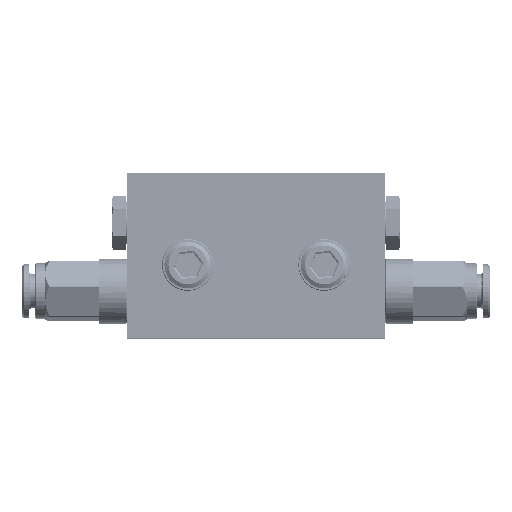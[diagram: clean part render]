
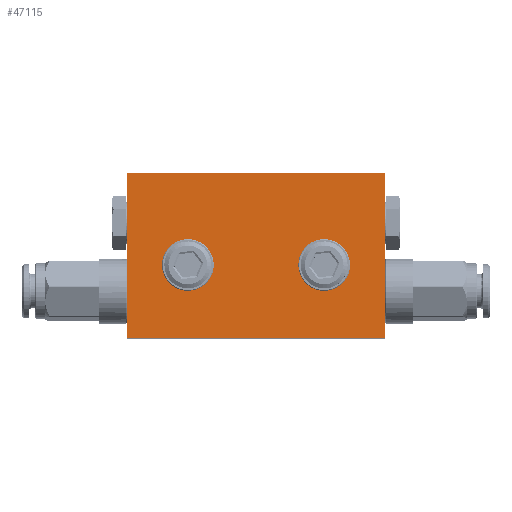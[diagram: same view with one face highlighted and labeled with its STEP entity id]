
A CAD part, top view. The second image highlights one B-rep face of the part: STEP entity #47115.
In plain terms, the highlighted planar face has unit normal (0, 0, 1) as drawn and (0, 0, -1) by its records, which use the part's own axes.
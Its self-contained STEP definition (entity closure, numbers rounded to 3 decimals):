
#1996 = LINE ( 'NONE', #6321, #38042 ) ;
#2087 = VERTEX_POINT ( 'NONE', #30344 ) ;
#2712 = DIRECTION ( 'NONE',  ( 1., 0., 0. ) ) ;
#4812 = EDGE_CURVE ( 'NONE', #17223, #35298, #1996, .T. ) ;
#6083 = VERTEX_POINT ( 'NONE', #46271 ) ;
#6157 = CARTESIAN_POINT ( 'NONE',  ( 0., 0., -4.85 ) ) ;
#6321 = CARTESIAN_POINT ( 'NONE',  ( 0., -35., -4.85 ) ) ;
#7140 = LINE ( 'NONE', #21806, #38499 ) ;
#7568 = DIRECTION ( 'NONE',  ( 0., 0., -1. ) ) ;
#7665 = VECTOR ( 'NONE', #36628, 1000. ) ;
#10630 = EDGE_CURVE ( 'NONE', #25937, #25937, #44286, .T. ) ;
#10793 = CARTESIAN_POINT ( 'NONE',  ( 11.4, -15.5, -4.85 ) ) ;
#11170 = CARTESIAN_POINT ( 'NONE',  ( -14.5, -15.5, -4.85 ) ) ;
#12442 = FACE_OUTER_BOUND ( 'NONE', #37999, .T. ) ;
#12645 = CARTESIAN_POINT ( 'NONE',  ( 0., 0., -4.85 ) ) ;
#12879 = EDGE_CURVE ( 'NONE', #35298, #2087, #21505, .T. ) ;
#14309 = CIRCLE ( 'NONE', #33456, 3.1 ) ;
#15279 = CARTESIAN_POINT ( 'NONE',  ( -27.5, 0., -4.85 ) ) ;
#17223 = VERTEX_POINT ( 'NONE', #35770 ) ;
#19350 = VERTEX_POINT ( 'NONE', #15279 ) ;
#19713 = DIRECTION ( 'NONE',  ( 0., 0., -1. ) ) ;
#19899 = FACE_BOUND ( 'NONE', #35730, .T. ) ;
#20159 = ORIENTED_EDGE ( 'NONE', *, *, #32365, .F. ) ;
#20818 = ORIENTED_EDGE ( 'NONE', *, *, #44192, .F. ) ;
#21505 = LINE ( 'NONE', #43619, #7665 ) ;
#21806 = CARTESIAN_POINT ( 'NONE',  ( -27.5, 0., -4.85 ) ) ;
#21876 = AXIS2_PLACEMENT_3D ( 'NONE', #6157, #24698, #42241 ) ;
#22231 = DIRECTION ( 'NONE',  ( 1., 0., 0. ) ) ;
#23545 = DIRECTION ( 'NONE',  ( -1., 0., 0. ) ) ;
#24698 = DIRECTION ( 'NONE',  ( 0., 0., 1. ) ) ;
#25937 = VERTEX_POINT ( 'NONE', #10793 ) ;
#26130 = VECTOR ( 'NONE', #27321, 1000. ) ;
#27321 = DIRECTION ( 'NONE',  ( -1., 0., 0. ) ) ;
#30344 = CARTESIAN_POINT ( 'NONE',  ( 27.5, 0., -4.85 ) ) ;
#32365 = EDGE_CURVE ( 'NONE', #6083, #6083, #14309, .T. ) ;
#32601 = ORIENTED_EDGE ( 'NONE', *, *, #4812, .F. ) ;
#33348 = ORIENTED_EDGE ( 'NONE', *, *, #12879, .F. ) ;
#33456 = AXIS2_PLACEMENT_3D ( 'NONE', #11170, #7568, #22231 ) ;
#34252 = LINE ( 'NONE', #12645, #26130 ) ;
#35298 = VERTEX_POINT ( 'NONE', #44389 ) ;
#35730 = EDGE_LOOP ( 'NONE', ( #40816 ) ) ;
#35770 = CARTESIAN_POINT ( 'NONE',  ( -27.5, -35., -4.85 ) ) ;
#36437 = DIRECTION ( 'NONE',  ( 0., -1., 0. ) ) ;
#36628 = DIRECTION ( 'NONE',  ( 0., 1., 0. ) ) ;
#37999 = EDGE_LOOP ( 'NONE', ( #32601, #20818, #39031, #33348 ) ) ;
#38042 = VECTOR ( 'NONE', #2712, 1000. ) ;
#38142 = PLANE ( 'NONE',  #21876 ) ;
#38275 = EDGE_LOOP ( 'NONE', ( #20159 ) ) ;
#38499 = VECTOR ( 'NONE', #36437, 1000. ) ;
#39031 = ORIENTED_EDGE ( 'NONE', *, *, #39241, .F. ) ;
#39241 = EDGE_CURVE ( 'NONE', #2087, #19350, #34252, .T. ) ;
#40816 = ORIENTED_EDGE ( 'NONE', *, *, #10630, .F. ) ;
#41218 = AXIS2_PLACEMENT_3D ( 'NONE', #42058, #19713, #23545 ) ;
#42058 = CARTESIAN_POINT ( 'NONE',  ( 14.5, -15.5, -4.85 ) ) ;
#42241 = DIRECTION ( 'NONE',  ( 1., 0., 0. ) ) ;
#43619 = CARTESIAN_POINT ( 'NONE',  ( 27.5, 0., -4.85 ) ) ;
#44192 = EDGE_CURVE ( 'NONE', #19350, #17223, #7140, .T. ) ;
#44286 = CIRCLE ( 'NONE', #41218, 3.1 ) ;
#44389 = CARTESIAN_POINT ( 'NONE',  ( 27.5, -35., -4.85 ) ) ;
#45387 = FACE_BOUND ( 'NONE', #38275, .T. ) ;
#46271 = CARTESIAN_POINT ( 'NONE',  ( -11.4, -15.5, -4.85 ) ) ;
#47115 = ADVANCED_FACE ( 'NONE', ( #45387, #19899, #12442 ), #38142, .F. ) ;
